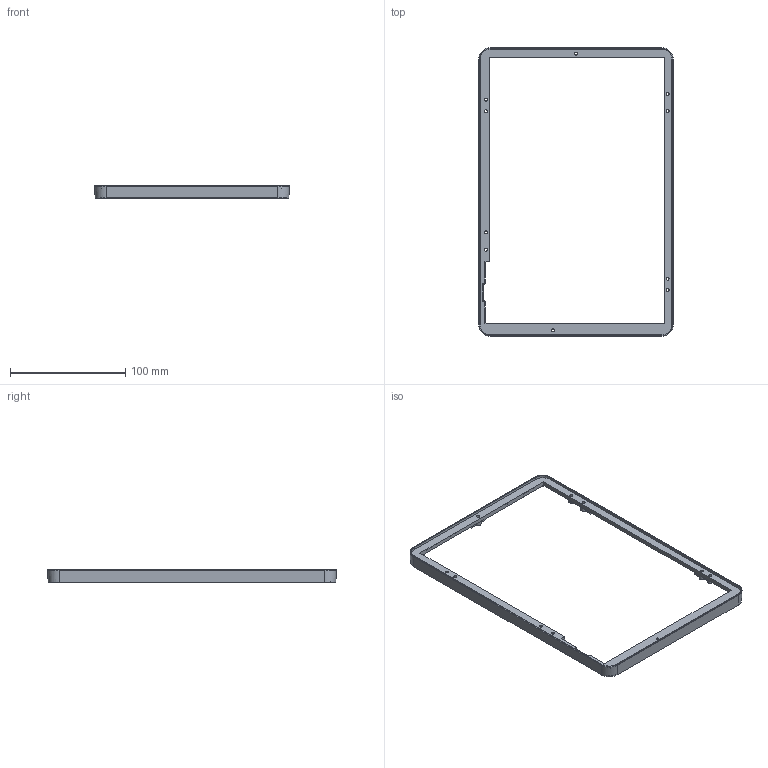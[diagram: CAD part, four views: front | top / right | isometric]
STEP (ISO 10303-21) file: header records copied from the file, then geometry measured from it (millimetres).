
FILE_DESCRIPTION(/* description */ (''),/* implementation_level */ '2;1');
FILE_NAME(/* name */ '10.1.stp',/* time_stamp */ '2021-07-02T17:10:58+08:00',/* author */ (''),/* organization */ (''),/* preprocessor_version */ 'ST-DEVELOPER v14',/* originating_system */ 'SIEMENS PLM Software NX 8.0',/* authorisation */ '');
FILE_SCHEMA (('AUTOMOTIVE_DESIGN { 1 0 10303 214 3 1 1 1 }'));
Length unit declared in the file: millimetre
Products named in the file (1): Admi1994CAA4lfp2
Bounding box: 168.43 x 249.83 x 10.95 mm (x, y, z)
Volume: 24535.1 mm3; surface area: 36227.1 mm2
Topology: 1 solids, 1 shells, 298 faces, 845 edges, 558 vertices
Faces by surface type: plane 227, cylinder 43, bspline 12, cone 12, extrusion 4
Full cylindrical faces by diameter (mm): 2.6 x10
Entity records: 12064 total; most frequent: CARTESIAN_POINT 2276, ORIENTED_EDGE 1638, DIRECTION 1473, EDGE_CURVE 819, VECTOR 667, LINE 663, VERTEX_POINT 552, AXIS2_PLACEMENT_3D 403
